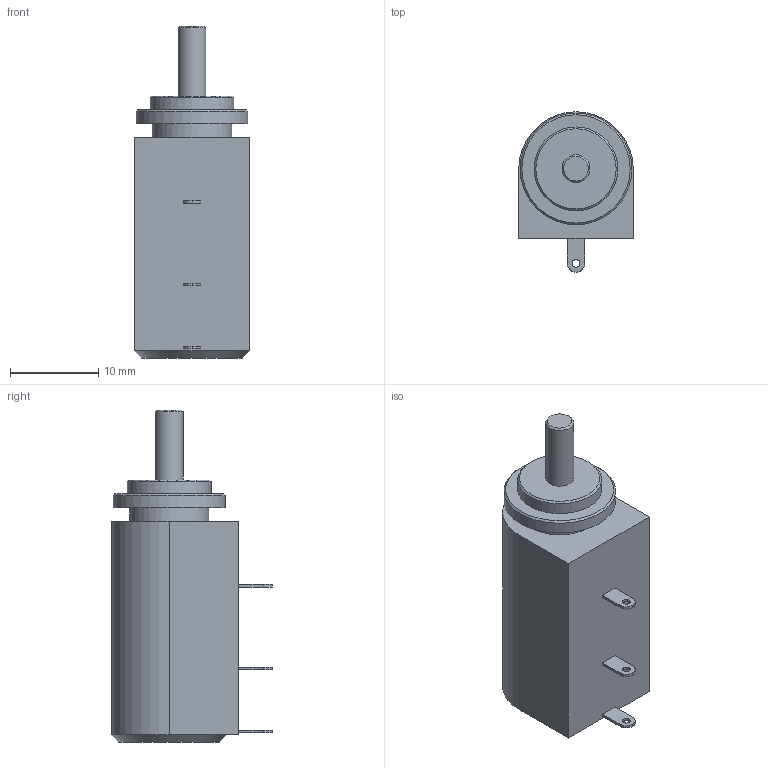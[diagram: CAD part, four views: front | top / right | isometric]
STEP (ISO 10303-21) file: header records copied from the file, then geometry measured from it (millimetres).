
FILE_DESCRIPTION (( 'STEP AP214' ), '1' );
FILE_NAME ('AL13-14.STEP', '2019-05-09T14:05:57', ( '' ), ( '' ), 'SwSTEP 2.0', 'SolidWorks 2017', '' );
FILE_SCHEMA (( 'AUTOMOTIVE_DESIGN' ));
Length unit declared in the file: millimetre
Products named in the file (1): AL13-14
Bounding box: 13 x 18.2 x 37.73 mm (x, y, z)
Volume: 4673 mm3; surface area: 1942.7 mm2
Topology: 1 solids, 1 shells, 40 faces, 93 edges, 62 vertices
Faces by surface type: plane 22, cylinder 14, cone 4
Full cylindrical faces by diameter (mm): 0.9 x3, 3.175 x1, 9 x1, 9.52 x1, 12.7 x1
Entity records: 1087 total; most frequent: DIRECTION 191, CARTESIAN_POINT 173, ORIENTED_EDGE 152, EDGE_CURVE 76, AXIS2_PLACEMENT_3D 74, EDGE_LOOP 64, VERTEX_POINT 56, FACE_OUTER_BOUND 47
